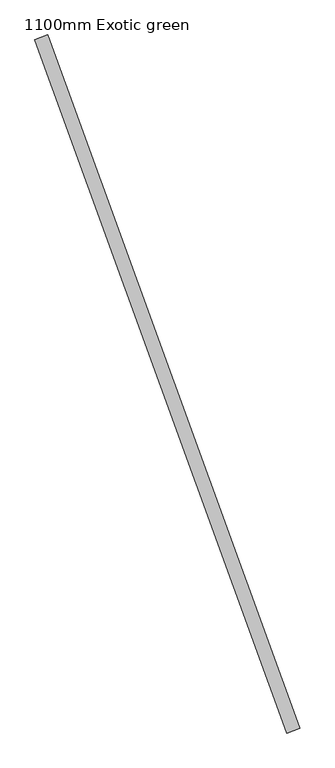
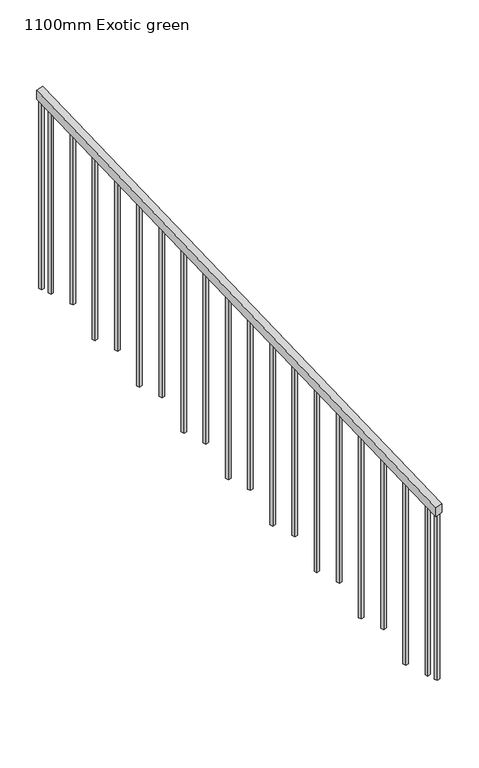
"""IFC4 building model written with IfcOpenShell, lengths in millimetres: railing geometry, 1100mm Exotic green."""

from ifc_helpers import new_model, si_unit, frame, origin, place, context, project, spatial, polyline, outline, extrude, source, transform, mapped, element, save


def railing_1100mm_exotic_green_3210b615(model_context):
    return source(origin(), model_context, "Body", "SweptSolid", [
        extrude(outline(polyline([(-26.3333333, -50.0), (0.0, 0.0), (3051.5707431, 0.0), (3025.2374097, -50.0), (-26.3333333, -50.0)])), frame((37997.7496934, 9989.104698, 7278.0), z_axis=(0.9396926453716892, 0.3420200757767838, 0.0), x_axis=(-0.3026160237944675, 0.8314308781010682, 0.46598952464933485)), (0.0, 0.0, 1.0), 50.0),
        extrude(outline(polyline([(1268.5, -20.0), (105.2666667, -20.0), (94.7333333, 0.0), (1268.5, 0.0), (1268.5, -20.0)])), frame((37110.6221834, 12470.3251197, 8710.5), z_axis=(0.9396926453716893, 0.3420200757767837, 0.0), x_axis=(0.0, 0.0, -1.0000000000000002)), (0.0, 0.0, 1.0), 20.0),
        extrude(outline(polyline([(1189.5, -20.0), (105.2666667, -20.0), (94.7333333, 0.0), (1189.5, 0.0), (1189.5, -20.0)])), frame((37161.9251948, 12329.3712229, 8631.5), z_axis=(0.9396926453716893, 0.3420200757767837, 0.0), x_axis=(0.0, 0.0, -1.0000000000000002)), (0.0, 0.0, 1.0), 20.0),
        extrude(outline(polyline([(1268.5, -20.0), (105.2666667, -20.0), (94.7333333, 0.0), (1268.5, 0.0), (1268.5, -20.0)])), frame((37213.2282061, 12188.4173261, 8552.5), z_axis=(0.9396926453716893, 0.3420200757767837, 0.0), x_axis=(0.0, 0.0, -1.0000000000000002)), (0.0, 0.0, 1.0), 20.0),
        extrude(outline(polyline([(1189.5, -20.0), (105.2666667, -20.0), (94.7333333, 0.0), (1189.5, 0.0), (1189.5, -20.0)])), frame((37264.5312175, 12047.4634293, 8473.5), z_axis=(0.9396926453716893, 0.3420200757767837, 0.0), x_axis=(0.0, 0.0, -1.0000000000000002)), (0.0, 0.0, 1.0), 20.0),
        extrude(outline(polyline([(1268.5, -20.0), (105.2666667, -20.0), (94.7333333, 0.0), (1268.5, 0.0), (1268.5, -20.0)])), frame((37315.8342289, 11906.5095325, 8394.5), z_axis=(0.9396926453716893, 0.3420200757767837, 0.0), x_axis=(0.0, 0.0, -1.0000000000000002)), (0.0, 0.0, 1.0), 20.0),
        extrude(outline(polyline([(1189.5, -20.0), (105.2666667, -20.0), (94.7333333, 0.0), (1189.5, 0.0), (1189.5, -20.0)])), frame((37367.1372402, 11765.5556357, 8315.5), z_axis=(0.9396926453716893, 0.3420200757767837, 0.0), x_axis=(0.0, 0.0, -1.0000000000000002)), (0.0, 0.0, 1.0), 20.0),
        extrude(outline(polyline([(1268.5, -20.0), (105.2666667, -20.0), (94.7333333, 0.0), (1268.5, 0.0), (1268.5, -20.0)])), frame((37418.4402516, 11624.6017389, 8236.5), z_axis=(0.9396926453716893, 0.3420200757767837, 0.0), x_axis=(0.0, 0.0, -1.0000000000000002)), (0.0, 0.0, 1.0), 20.0),
        extrude(outline(polyline([(1189.5, -20.0), (105.2666667, -20.0), (94.7333333, 0.0), (1189.5, 0.0), (1189.5, -20.0)])), frame((37469.743263, 11483.6478421, 8157.5), z_axis=(0.9396926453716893, 0.3420200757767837, 0.0), x_axis=(0.0, 0.0, -1.0000000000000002)), (0.0, 0.0, 1.0), 20.0),
        extrude(outline(polyline([(1268.5, -20.0), (105.2666667, -20.0), (94.7333333, 0.0), (1268.5, 0.0), (1268.5, -20.0)])), frame((37521.0462743, 11342.6939453, 8078.5), z_axis=(0.9396926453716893, 0.3420200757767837, 0.0), x_axis=(0.0, 0.0, -1.0000000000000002)), (0.0, 0.0, 1.0), 20.0),
        extrude(outline(polyline([(1189.5, -20.0), (105.2666667, -20.0), (94.7333333, 0.0), (1189.5, 0.0), (1189.5, -20.0)])), frame((37572.3492857, 11201.7400485, 7999.5), z_axis=(0.9396926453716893, 0.3420200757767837, 0.0), x_axis=(0.0, 0.0, -1.0000000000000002)), (0.0, 0.0, 1.0), 20.0),
        extrude(outline(polyline([(1268.5, -20.0), (105.2666667, -20.0), (94.7333333, 0.0), (1268.5, 0.0), (1268.5, -20.0)])), frame((37623.6522971, 11060.7861517, 7920.5), z_axis=(0.9396926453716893, 0.3420200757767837, 0.0), x_axis=(0.0, 0.0, -1.0000000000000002)), (0.0, 0.0, 1.0), 20.0),
        extrude(outline(polyline([(1189.5, -20.0), (105.2666667, -20.0), (94.7333333, 0.0), (1189.5, 0.0), (1189.5, -20.0)])), frame((37674.9553084, 10919.8322549, 7841.5), z_axis=(0.9396926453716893, 0.3420200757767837, 0.0), x_axis=(0.0, 0.0, -1.0000000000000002)), (0.0, 0.0, 1.0), 20.0),
        extrude(outline(polyline([(1268.5, -20.0), (105.2666667, -20.0), (94.7333333, 0.0), (1268.5, 0.0), (1268.5, -20.0)])), frame((37726.2583198, 10778.8783581, 7762.5), z_axis=(0.9396926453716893, 0.3420200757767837, 0.0), x_axis=(0.0, 0.0, -1.0000000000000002)), (0.0, 0.0, 1.0), 20.0),
        extrude(outline(polyline([(1189.5, -20.0), (105.2666667, -20.0), (94.7333333, 0.0), (1189.5, 0.0), (1189.5, -20.0)])), frame((37777.5613311, 10637.9244613, 7683.5), z_axis=(0.9396926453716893, 0.3420200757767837, 0.0), x_axis=(0.0, 0.0, -1.0000000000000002)), (0.0, 0.0, 1.0), 20.0),
        extrude(outline(polyline([(1268.5, -20.0000001), (105.2666667, -20.0000001), (94.7333333, 0.0), (1268.5, 0.0), (1268.5, -20.0000001)])), frame((37828.8643425, 10496.9705645, 7604.5), z_axis=(0.9396926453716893, 0.3420200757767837, 0.0), x_axis=(0.0, 0.0, -1.0000000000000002)), (0.0, 0.0, 1.0), 20.0),
        extrude(outline(polyline([(1189.5, -20.0), (105.2666667, -20.0), (94.7333333, 0.0), (1189.5, 0.0), (1189.5, -20.0)])), frame((37880.1673539, 10356.0166676, 7525.5), z_axis=(0.9396926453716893, 0.3420200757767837, 0.0), x_axis=(0.0, 0.0, -1.0000000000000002)), (0.0, 0.0, 1.0), 20.0),
        extrude(outline(polyline([(1268.5, -20.0), (105.2666667, -20.0), (94.7333333, 0.0), (1268.5, 0.0), (1268.5, -20.0)])), frame((37931.4703652, 10215.0627708, 7446.5), z_axis=(0.9396926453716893, 0.3420200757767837, 0.0), x_axis=(0.0, 0.0, -1.0000000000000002)), (0.0, 0.0, 1.0), 20.0),
        extrude(outline(polyline([(1189.5, -20.0), (105.2666667, -20.0), (94.7333333, 0.0), (1189.5, 0.0), (1189.5, -20.0)])), frame((37982.7733766, 10074.108874, 7367.5), z_axis=(0.9396926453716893, 0.3420200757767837, 0.0), x_axis=(0.0, 0.0, -1.0000000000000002)), (0.0, 0.0, 1.0), 20.0),
        extrude(outline(polyline([(1301.4166667, -20.0), (105.2666667, -20.0), (94.7333334, 0.0), (1301.4166667, 0.0), (1301.4166667, -20.0)])), frame((37089.2459286, 12529.0559101, 8743.4166667), z_axis=(0.9396926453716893, 0.3420200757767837, 0.0), x_axis=(0.0, 0.0, -1.0000000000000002)), (0.0, 0.0, 1.0), 20.0),
        extrude(outline(polyline([(1156.5833333, -20.0), (105.2666666, -20.0), (94.7333333, 0.0), (1156.5833333, 0.0), (1156.5833333, -20.0)])), frame((38004.1496314, 10015.3780837, 7334.5833333), z_axis=(0.9396926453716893, 0.3420200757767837, 0.0), x_axis=(0.0, 0.0, -1.0000000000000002)), (0.0, 0.0, 1.0), 20.0),
    ])


if __name__ == "__main__":
    model = new_model("IFC4")
    model_context = context("Model", 3, world=origin())
    ifc_project = project(units=[si_unit("LENGTHUNIT", "METRE", prefix="MILLI")], contexts=[model_context])
    site = spatial("IfcSite", under=ifc_project)
    building = spatial("IfcBuilding", under=site)
    placement = place(None, origin())
    railing_1100mm_exotic_green_shape = railing_1100mm_exotic_green_3210b615(model_context)
    element("IfcRailing", 1, ObjectType="1100mm Exotic green", at=placement, inside=building, context=model_context, shape_type="MappedRepresentation", body=[
        mapped(railing_1100mm_exotic_green_shape, transform((0.0, 0.0, 0.0), x_axis=(1.0, 0.0, 0.0), y_axis=(0.0, 1.0, 0.0), z_axis=(0.0, 0.0, 1.0))),
    ])
    save(model, "model.ifc")
